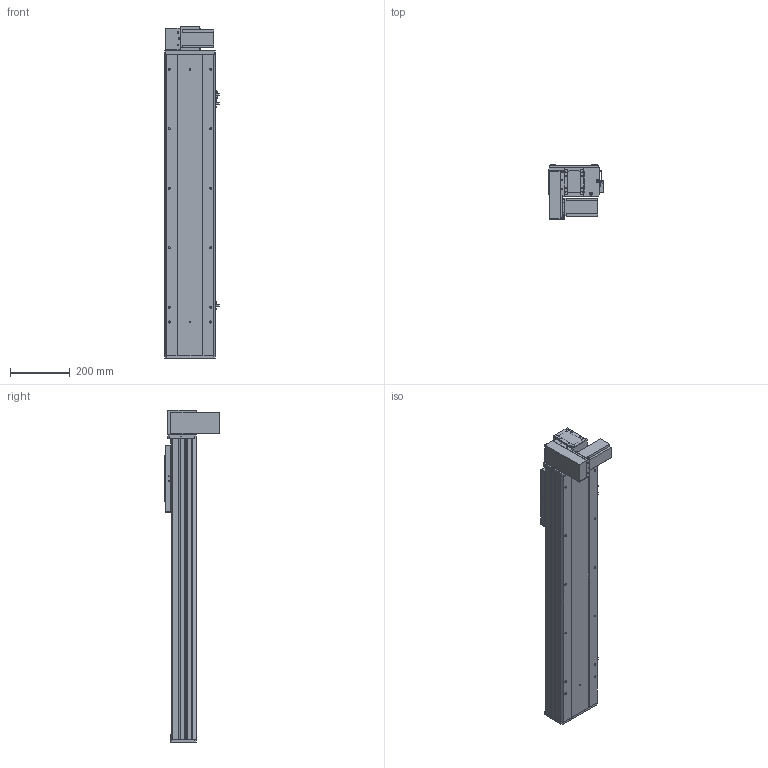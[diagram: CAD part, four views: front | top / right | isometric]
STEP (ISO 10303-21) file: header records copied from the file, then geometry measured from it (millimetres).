
FILE_DESCRIPTION (( 'STEP AP203' ), '1' );
FILE_NAME ('Y170CB-D105-S700-BM-P400W.STEP', '2020-02-20T06:17:52', ( '微软用户' ), ( '微软中国' ), 'SwSTEP 2.0', 'SolidWorks 2017', '' );
FILE_SCHEMA (( 'CONFIG_CONTROL_DESIGN' ));
Length unit declared in the file: millimetre
Products named in the file (18): 70B喘謫眊----; 70C-雄赽釱-奻-; B-源倛裔啣; Y170CB-D105-S700-BM-P400W; 0C--雄赽釱俋欶-170; 0B-萇儂楊擘啣; 70CB-詩湍--; san松下电机400不带刹车----; Y100-135俋离換覜ん--; 70CB-掛极-; Y170CB-陔俋离換覜結え---; --70CB --喘謫眊楊擘啣-; Y1埴倛裔; 70CB-耜裔啣-; 17B-耜蚾蟀諉啣----; 70C--詩湍揤踡え-; 00B-俋欶BM--163; 70CB--耜裔
Assembly tree (21 placements, depth 2):
  Y170CB-D105-S700-BM-P400W
    B-源倛裔啣
    0B-萇儂楊擘啣
    san松下电机400不带刹车----
    70CB-掛极-
    --70CB --喘謫眊楊擘啣-
    70CB-耜裔啣-  x2
    70C--詩湍揤踡え-  x2
    70CB--耜裔
    70C-雄赽釱-奻-
    0C--雄赽釱俋欶-170
    70CB-詩湍--
    Y100-135俋离換覜ん--  x3
    Y170CB-陔俋离換覜結え---
    Y1埴倛裔
    17B-耜蚾蟀諉啣----
    00B-俋欶BM--163
    70B喘謫眊----
Bounding box: 183.5 x 184 x 1116 mm (x, y, z)
Volume: 5357712.6 mm3; surface area: 1913918.3 mm2
Topology: 21 solids, 21 shells, 999 faces, 2669 edges, 1770 vertices
Faces by surface type: cylinder 513, plane 462, cone 24
Entity records: 31744 total; most frequent: CARTESIAN_POINT 5796, DIRECTION 5162, ORIENTED_EDGE 4820, EDGE_CURVE 2410, AXIS2_PLACEMENT_3D 1888, VERTEX_POINT 1600, VECTOR 1386, LINE 1386
